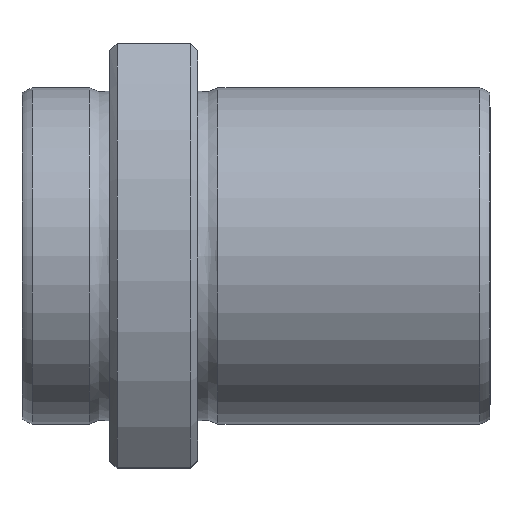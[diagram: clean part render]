
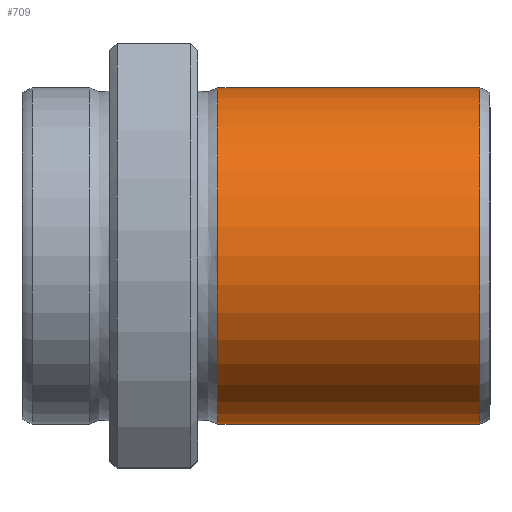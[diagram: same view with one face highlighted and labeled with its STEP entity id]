
A CAD part, top view. The second image highlights one B-rep face of the part: STEP entity #709.
In plain terms, the highlighted cylindrical face has radius 11.5 mm (diameter 23 mm), a full revolution.
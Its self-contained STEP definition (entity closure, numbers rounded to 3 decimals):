
#675=CARTESIAN_POINT('',(31.304,0.0,11.5));
#676=VERTEX_POINT('',#675);
#677=CARTESIAN_POINT('',(31.304,0.0,0.0));
#678=DIRECTION('',(-1.0,0.0,0.0));
#679=DIRECTION('',(0.0,0.0,1.0));
#680=AXIS2_PLACEMENT_3D('',#677,#678,#679);
#681=CIRCLE('',#680,11.5);
#682=EDGE_CURVE('',#676,#676,#681,.T.);
#690=CARTESIAN_POINT('',(22.352,0.0,0.0));
#691=DIRECTION('',(-1.0,0.0,0.0));
#692=DIRECTION('',(0.0,0.0,1.0));
#693=AXIS2_PLACEMENT_3D('',#690,#691,#692);
#694=CYLINDRICAL_SURFACE('',#693,11.5);
#695=CARTESIAN_POINT('',(13.4,0.0,11.5));
#696=VERTEX_POINT('',#695);
#697=CARTESIAN_POINT('',(13.4,0.0,0.0));
#698=DIRECTION('',(-1.0,0.0,0.0));
#699=DIRECTION('',(0.0,0.0,1.0));
#700=AXIS2_PLACEMENT_3D('',#697,#698,#699);
#701=CIRCLE('',#700,11.5);
#702=EDGE_CURVE('',#696,#696,#701,.T.);
#703=ORIENTED_EDGE('',*,*,#702,.F.);
#704=EDGE_LOOP('',(#703));
#705=FACE_OUTER_BOUND('',#704,.T.);
#706=ORIENTED_EDGE('',*,*,#682,.T.);
#707=EDGE_LOOP('',(#706));
#708=FACE_BOUND('',#707,.T.);
#709=ADVANCED_FACE('',(#705,#708),#694,.T.);
